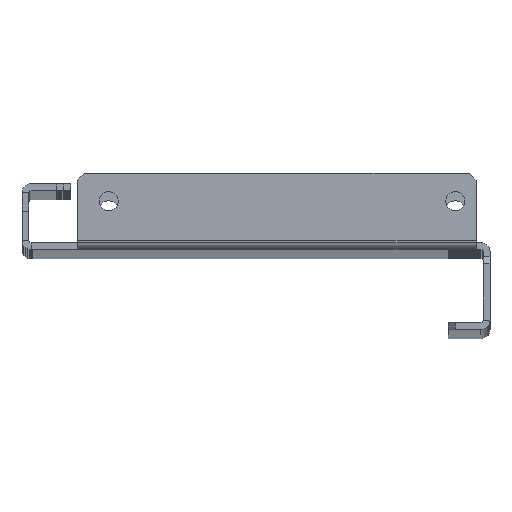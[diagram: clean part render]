
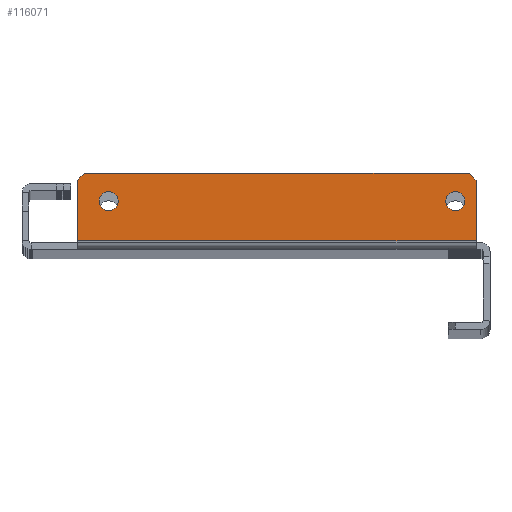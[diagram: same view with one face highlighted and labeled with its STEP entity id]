
A CAD part, top view. The second image highlights one B-rep face of the part: STEP entity #116071.
In plain terms, the highlighted planar face has unit normal (0, 0, 1).
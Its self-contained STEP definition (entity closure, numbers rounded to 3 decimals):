
#86161=CARTESIAN_POINT(' ',(131.,1.,1540.));
#86162=VERTEX_POINT(' ',#86161);
#86176=CARTESIAN_POINT(' ',(131.,1.,1540.));
#86181=DIRECTION(' ',(0.,-1.,0.));
#86186=VECTOR(' ',#86181,1.);
#86191=LINE('',#86176,#86186);
#86196=CARTESIAN_POINT(' ',(131.,-16.4,1540.));
#86197=VERTEX_POINT(' ',#86196);
#86201=EDGE_CURVE(' ',#86162,#86197,#86191,.T.);
#91181=CARTESIAN_POINT(' ',(16.,-16.4,1540.));
#91186=DIRECTION(' ',(1.,0.,0.));
#91191=VECTOR(' ',#91186,1.);
#91196=LINE('',#91181,#91191);
#91201=CARTESIAN_POINT(' ',(16.,-16.4,1540.));
#91202=VERTEX_POINT(' ',#91201);
#91206=EDGE_CURVE(' ',#91202,#86197,#91196,.T.);
#91306=CARTESIAN_POINT(' ',(16.,1.,1540.));
#91311=DIRECTION(' ',(0.,-1.,0.));
#91316=VECTOR(' ',#91311,1.);
#91321=LINE('',#91306,#91316);
#91326=CARTESIAN_POINT(' ',(16.,1.,1540.));
#91327=VERTEX_POINT(' ',#91326);
#91331=EDGE_CURVE(' ',#91327,#91202,#91321,.T.);
#115681=CARTESIAN_POINT(' ',(131.,1.,1540.));
#115686=DIRECTION(' ',(-0.707,0.707,0.));
#115691=VECTOR(' ',#115686,1.);
#115696=LINE('',#115681,#115691);
#115701=CARTESIAN_POINT(' ',(129.,3.,1540.));
#115702=VERTEX_POINT(' ',#115701);
#115706=EDGE_CURVE(' ',#86162,#115702,#115696,.T.);
#115771=DIRECTION(' ',(0.,0.,1.));
#115776=CARTESIAN_POINT(' ',(16.,-16.4,1540.));
#115781=DIRECTION(' ',(1.,0.,-0.));
#115786=AXIS2_PLACEMENT_3D(' ',#115776,#115771,#115781);
#115791=PLANE('NONE',#115786);
#115796=CARTESIAN_POINT(' ',(129.,3.,1540.));
#115801=DIRECTION(' ',(-1.,0.,0.));
#115806=VECTOR(' ',#115801,1.);
#115811=LINE('',#115796,#115806);
#115816=CARTESIAN_POINT(' ',(18.,3.,1540.));
#115817=VERTEX_POINT(' ',#115816);
#115821=EDGE_CURVE(' ',#115702,#115817,#115811,.T.);
#115826=ORIENTED_EDGE(' ',*,*,#115821,.T.);
#115831=CARTESIAN_POINT(' ',(18.,3.,1540.));
#115836=DIRECTION(' ',(-0.707,-0.707,0.));
#115841=VECTOR(' ',#115836,1.);
#115846=LINE('',#115831,#115841);
#115851=EDGE_CURVE(' ',#115817,#91327,#115846,.T.);
#115856=ORIENTED_EDGE(' ',*,*,#115851,.T.);
#115861=ORIENTED_EDGE(' ',*,*,#91331,.T.);
#115866=ORIENTED_EDGE(' ',*,*,#91206,.T.);
#115871=ORIENTED_EDGE(' ',*,*,#86201,.F.);
#115876=ORIENTED_EDGE(' ',*,*,#115706,.T.);
#115881=EDGE_LOOP(' ',(#115826,#115856,#115861,#115866,#115871,#115876));
#115886=FACE_OUTER_BOUND(' ',#115881,.T.);
#115891=CARTESIAN_POINT(' ',(25.,-5.,1540.));
#115896=DIRECTION(' ',(-0.,0.,-1.));
#115901=DIRECTION(' ',(0.,1.,0.));
#115906=AXIS2_PLACEMENT_3D(' ',#115891,#115896,#115901);
#115911=CIRCLE('',#115906,2.75);
#115916=CARTESIAN_POINT(' ',(25.,-2.25,1540.));
#115917=VERTEX_POINT(' ',#115916);
#115921=CARTESIAN_POINT(' ',(25.,-7.75,1540.));
#115922=VERTEX_POINT(' ',#115921);
#115926=EDGE_CURVE(' ',#115917,#115922,#115911,.T.);
#115931=ORIENTED_EDGE(' ',*,*,#115926,.T.);
#115936=CARTESIAN_POINT(' ',(25.,-5.,1540.));
#115941=DIRECTION(' ',(0.,0.,-1.));
#115946=DIRECTION(' ',(0.,-1.,0.));
#115951=AXIS2_PLACEMENT_3D(' ',#115936,#115941,#115946);
#115956=CIRCLE('',#115951,2.75);
#115961=EDGE_CURVE(' ',#115922,#115917,#115956,.T.);
#115966=ORIENTED_EDGE(' ',*,*,#115961,.T.);
#115971=EDGE_LOOP(' ',(#115931,#115966));
#115976=FACE_BOUND(' ',#115971,.T.);
#115981=CARTESIAN_POINT(' ',(125.,-5.,1540.));
#115986=DIRECTION(' ',(-0.,0.,-1.));
#115991=DIRECTION(' ',(0.,1.,0.));
#115996=AXIS2_PLACEMENT_3D(' ',#115981,#115986,#115991);
#116001=CIRCLE('',#115996,2.75);
#116006=CARTESIAN_POINT(' ',(125.,-2.25,1540.));
#116007=VERTEX_POINT(' ',#116006);
#116011=CARTESIAN_POINT(' ',(125.,-7.75,1540.));
#116012=VERTEX_POINT(' ',#116011);
#116016=EDGE_CURVE(' ',#116007,#116012,#116001,.T.);
#116021=ORIENTED_EDGE(' ',*,*,#116016,.T.);
#116026=CARTESIAN_POINT(' ',(125.,-5.,1540.));
#116031=DIRECTION(' ',(0.,0.,-1.));
#116036=DIRECTION(' ',(0.,-1.,0.));
#116041=AXIS2_PLACEMENT_3D(' ',#116026,#116031,#116036);
#116046=CIRCLE('',#116041,2.75);
#116051=EDGE_CURVE(' ',#116012,#116007,#116046,.T.);
#116056=ORIENTED_EDGE(' ',*,*,#116051,.T.);
#116061=EDGE_LOOP(' ',(#116021,#116056));
#116066=FACE_BOUND(' ',#116061,.T.);
#116071=ADVANCED_FACE('NONE',(#115886,#115976,#116066),#115791,.T.);
